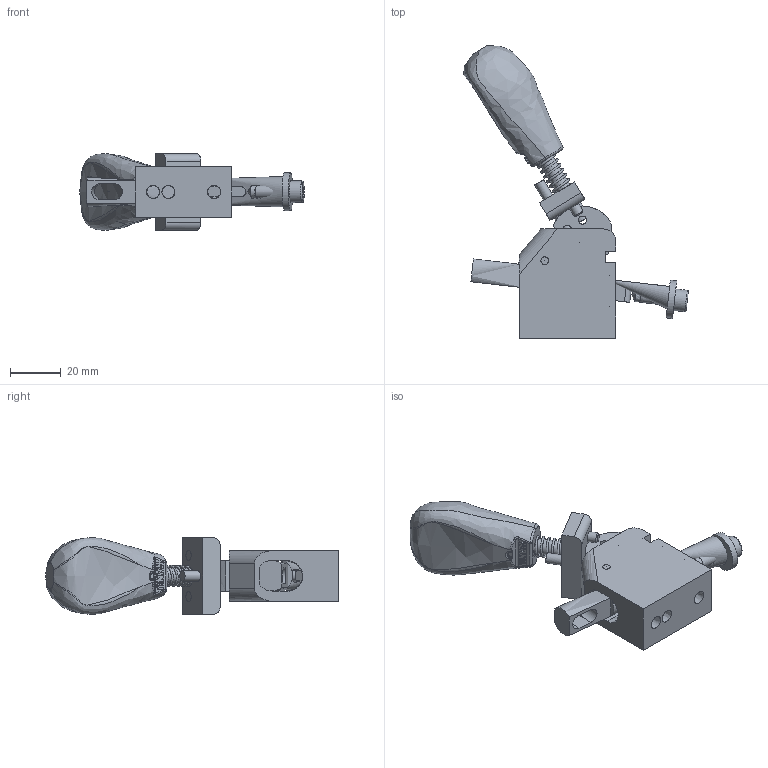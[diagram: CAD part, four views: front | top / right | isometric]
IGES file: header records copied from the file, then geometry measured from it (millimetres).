
Global section: file name: SUD-20ST-L-UNCLAMP; native system: Autodesk Inventor 2019; preprocessor: unknown; author: 桶田 勝弘,,  11,0; organization: 20171007.081954; date: 20240514.170500; units: millimetre
Bounding box: 88.41 x 115.17 x 30.18 mm (x, y, z)
Volume: 54061.6 mm3; surface area: 24344.8 mm2
Topology: 14 solids, 14 shells, 268 faces, 727 edges, 486 vertices
Faces by surface type: bspline 268
